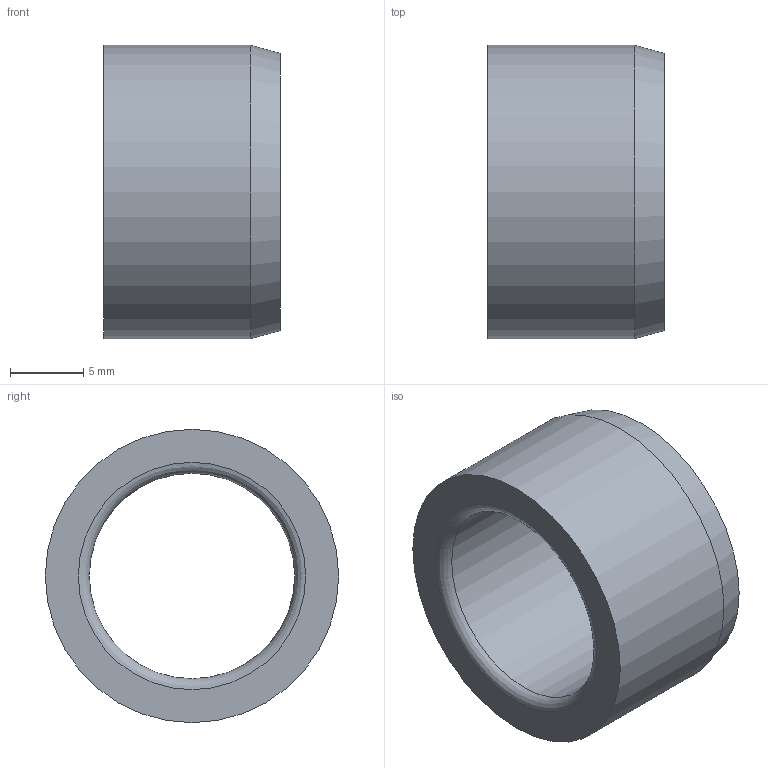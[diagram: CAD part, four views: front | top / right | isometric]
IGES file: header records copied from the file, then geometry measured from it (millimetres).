
Global section: file name: BG04.142012.ipt; native system: Autodesk Inventor 2021; preprocessor: unknown; author: SM; date: 20211217.162946; units: millimetre
Bounding box: 12 x 20 x 20 mm (x, y, z)
Volume: 1878.7 mm3; surface area: 1542.6 mm2
Topology: 1 solids, 1 shells, 7 faces, 18 edges, 13 vertices
Faces by surface type: revolution 3, plane 2, cylinder 1, cone 1
Full cylindrical faces by diameter (mm): 20 x1
